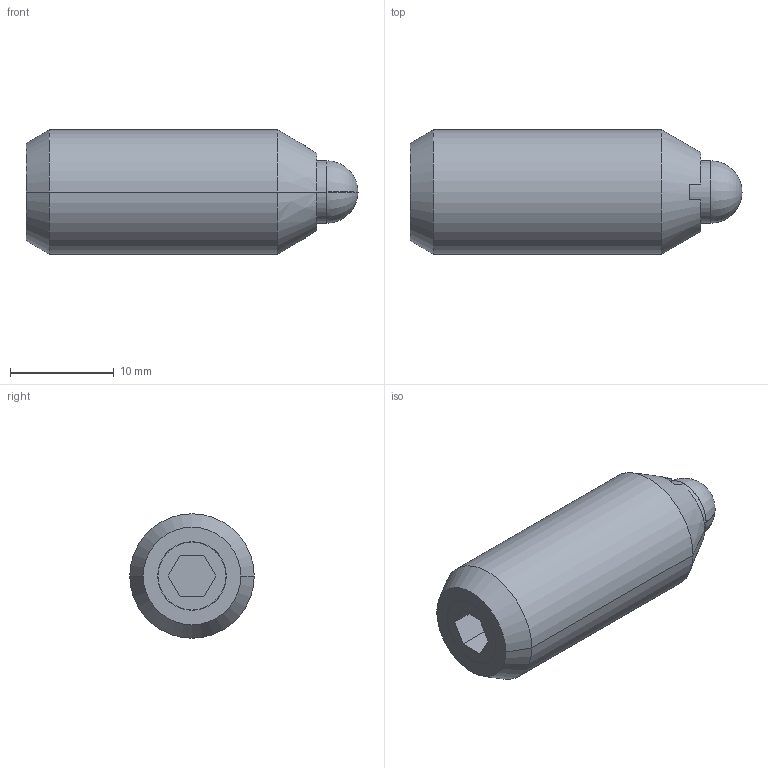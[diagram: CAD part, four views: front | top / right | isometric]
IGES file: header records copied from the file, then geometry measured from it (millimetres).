
Start section:  PTC IGES file: sm12a-3D.igs
Global section: file name: sm12a-3D.igs; native system: Pro/ENGINEER by Parametric Technology Corporation; preprocessor: 2002350; author: chant; organization: Unknown; date: 061031.162554; units: inch
Bounding box: 31.98 x 11.99 x 11.99 mm (x, y, z)
Surface area: 1456 mm2 (no closed solid volume)
Topology: 0 solids, 0 shells, 32 faces, 222 edges, 280 vertices
Faces by surface type: bspline 16, revolution 16
